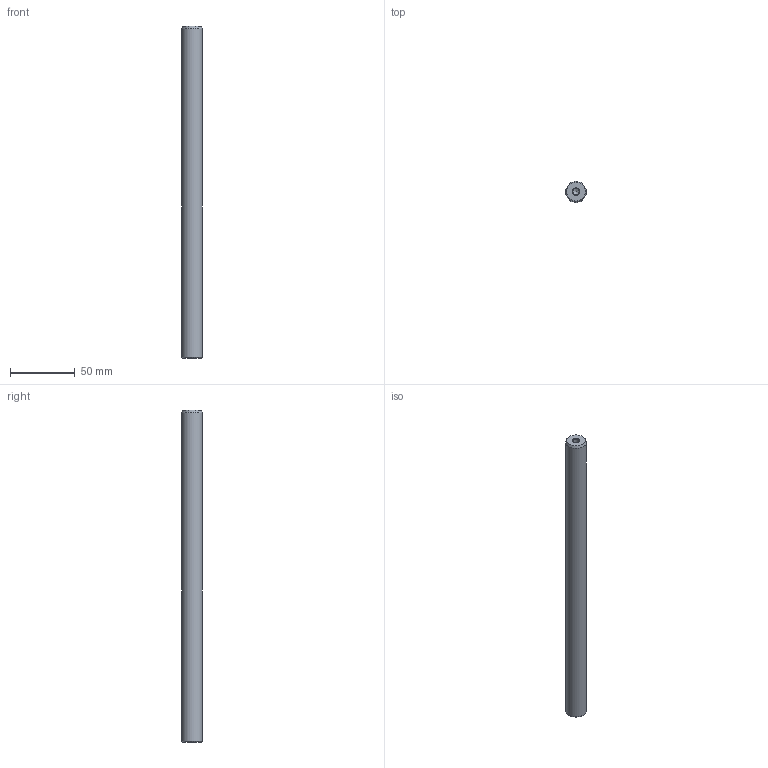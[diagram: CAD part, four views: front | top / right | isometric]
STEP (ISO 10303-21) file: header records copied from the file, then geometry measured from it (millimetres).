
FILE_DESCRIPTION( ( 'STEP AP214' ), '1' );
FILE_NAME( 'U:/Etudes/Top Solid/BIBLIO_Fournisseur/Colonnes UG/Ø16x257.step', '2004-12-22T12:37:21', ( ' ' ), ( ' ' ), 'XStep 1.0', ' ', ' ' );
FILE_SCHEMA( ( 'automotive_design' ) );
Length unit declared in the file: metre
Products named in the file (1): 1
Bounding box: 16 x 16 x 257 mm (x, y, z)
Volume: 51016.5 mm3; surface area: 13750.3 mm2
Topology: 1 solids, 1 shells, 13 faces, 27 edges, 16 vertices
Faces by surface type: cone 6, cylinder 5, plane 2
Full cylindrical faces by diameter (mm): 4.918 x4, 16 x1
Entity records: 382 total; most frequent: DIRECTION 52, CARTESIAN_POINT 40, AXIS2_PLACEMENT_3D 26, EDGE_LOOP 24, ORIENTED_EDGE 24, FACE_OUTER_BOUND 18, VERTEX_POINT 14, STYLED_ITEM 13
